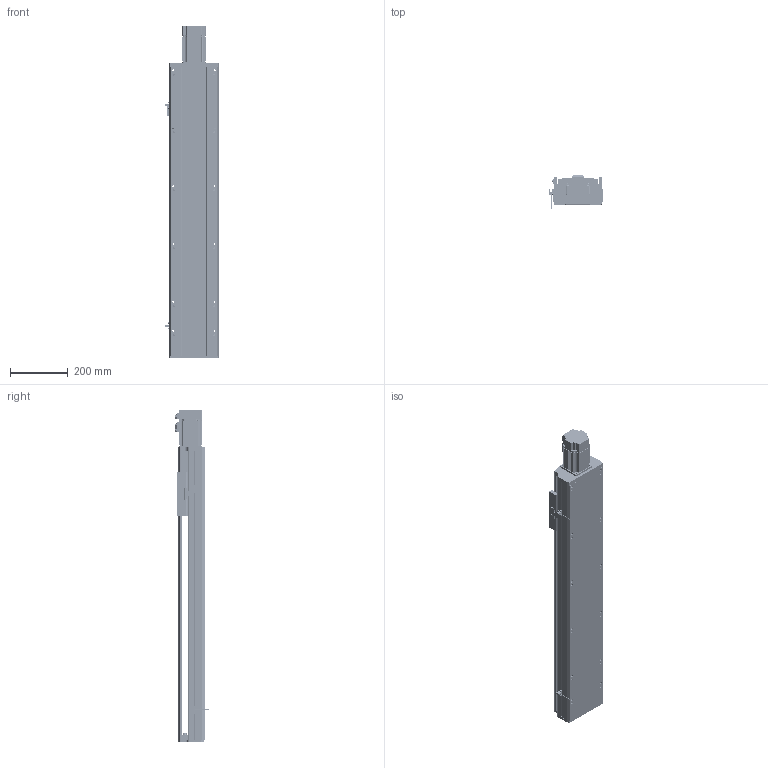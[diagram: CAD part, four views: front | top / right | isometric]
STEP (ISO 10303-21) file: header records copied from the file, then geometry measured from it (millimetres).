
FILE_DESCRIPTION (( 'STEP AP214' ), '1' );
FILE_NAME ('CTH170-750.STEP', '2019-11-25T08:59:03', ( '微软用户' ), ( '微软中国' ), 'SwSTEP 2.0', 'SolidWorks 2017', '' );
FILE_SCHEMA (( 'AUTOMOTIVE_DESIGN' ));
Length unit declared in the file: millimetre
Products named in the file (32): SFH2010佪裝; M3-L8囀鞠褒蹟佪; 80EMA-016A; EE-SX672峚倰換覜ん; 170萇儂啣; CT17耀郪-覜茼んえ; 170傷啣; M6-L20囀鞠褒蹟佪; EGH20CA; 蚾饜极3^CTH170-L10-200; M5-L20囀鞠褒蹟佪-BR L; M4-L10囀鞠褒蹟佪-BR L; M5-L10囀鞠褒蹟佪; 坶踡蹟簽M15x1; EGH20CA_BLOCK; 潔路遠COL15-A; EG20_RAIL; MISUMI_B7002-DB_盄俶絳砃粣; 170賑怢; BEARING_MISUMI_B7002-DB_盄俶絳砃粣; 170裔啣^CTH170-L10-200; 錨璃8^蚾饜极3_CTH170-L10-200; 錨璃2; 复件 轴承座^装配体3_CTH170-L10-200; 佪話盓傅釱^CTH170-L10-200; CTH170-750; M5-L16囀鞠褒蹟佪; 遣喳蝶15x12x8-BR L; 支撑座^丝杠支撑座_CTH170-L10-200; B6002Z; _C-BSST2005_n; SFS2005-411-SZC
Assembly tree (79 placements, depth 4):
  CTH170-750
    錨璃2
    170裔啣^CTH170-L10-200
    170賑怢
    EGH20CA  x2
      EG20_RAIL
      EGH20CA_BLOCK
      M5-L10囀鞠褒蹟佪
      M5-L20囀鞠褒蹟佪-BR L
    170傷啣
    170萇儂啣
    80EMA-016A
    SFS2005-411-SZC
      SFH2010佪裝
    _C-BSST2005_n
    佪話盓傅釱^CTH170-L10-200
      B6002Z
      支撑座^丝杠支撑座_CTH170-L10-200
      遣喳蝶15x12x8-BR L  x2
      M5-L16囀鞠褒蹟佪  x2
    蚾饜极3^CTH170-L10-200
      复件 轴承座^装配体3_CTH170-L10-200
      錨璃8^蚾饜极3_CTH170-L10-200
      MISUMI_B7002-DB_盄俶絳砃粣
        BEARING_MISUMI_B7002-DB_盄俶絳砃粣  x2
      潔路遠COL15-A  x2
      坶踡蹟簽M15x1
      M5-L16囀鞠褒蹟佪  x6
      M4-L10囀鞠褒蹟佪-BR L  x4
    遣喳蝶15x12x8-BR L  x2
    M6-L20囀鞠褒蹟佪  x4
    M4-L10囀鞠褒蹟佪-BR L  x10
    M5-L16囀鞠褒蹟佪  x4
    CT17耀郪-覜茼んえ
    EE-SX672峚倰換覜ん  x2
    M3-L8囀鞠褒蹟佪  x4
Bounding box: 183.7 x 117.95 x 1146 mm (x, y, z)
Volume: 6662781.6 mm3; surface area: 2040068.8 mm2
Topology: 91 solids, 92 shells, 5691 faces, 14953 edges, 9530 vertices
Faces by surface type: plane 3126, cylinder 1542, cone 641, bspline 342, torus 40
Entity records: 102430 total; most frequent: CARTESIAN_POINT 21753, ORIENTED_EDGE 14724, DIRECTION 14365, EDGE_CURVE 7362, AXIS2_PLACEMENT_3D 5020, VERTEX_POINT 4786, VECTOR 4325, LINE 4325
